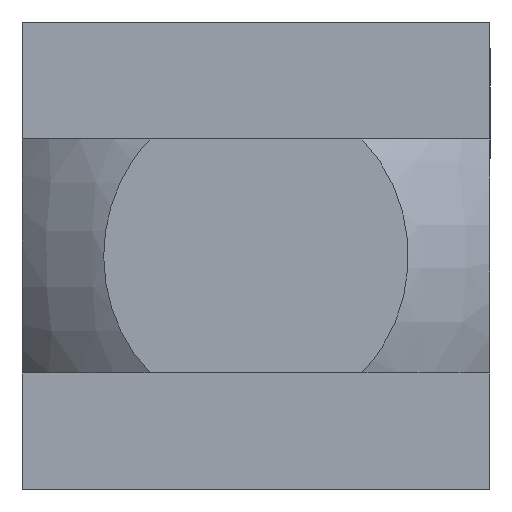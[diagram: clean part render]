
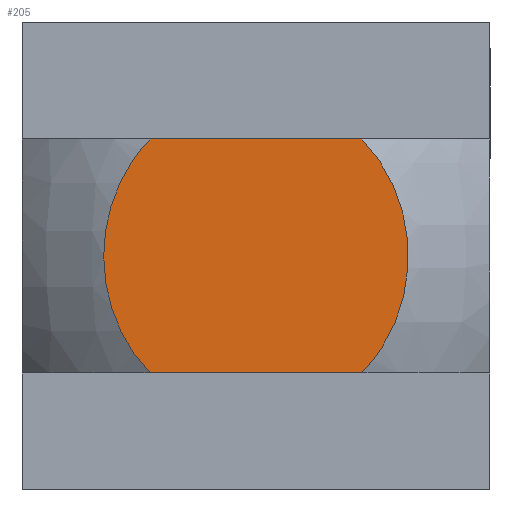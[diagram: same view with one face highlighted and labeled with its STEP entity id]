
A CAD part, left-side view. The second image highlights one B-rep face of the part: STEP entity #205.
In plain terms, the highlighted planar face has unit normal (-1, 0, 0).
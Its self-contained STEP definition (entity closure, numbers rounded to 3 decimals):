
#179 = EDGE_CURVE ( 'NONE', #252, #194, #705, .T. ) ;
#189 = ORIENTED_EDGE ( 'NONE', *, *, #179, .F. ) ;
#190 = EDGE_CURVE ( 'NONE', #219, #191, #719, .T. ) ;
#191 = VERTEX_POINT ( 'NONE', #718 ) ;
#192 = ORIENTED_EDGE ( 'NONE', *, *, #193, .T. ) ;
#193 = EDGE_CURVE ( 'NONE', #219, #194, #720, .T. ) ;
#194 = VERTEX_POINT ( 'NONE', #789 ) ;
#205 = ADVANCED_FACE ( 'NONE', ( #759 ), #758, .T. ) ;
#213 = EDGE_LOOP ( 'NONE', ( #218, #192, #189, #243 ) ) ;
#218 = ORIENTED_EDGE ( 'NONE', *, *, #190, .F. ) ;
#219 = VERTEX_POINT ( 'NONE', #806 ) ;
#243 = ORIENTED_EDGE ( 'NONE', *, *, #244, .F. ) ;
#244 = EDGE_CURVE ( 'NONE', #191, #252, #912, .T. ) ;
#252 = VERTEX_POINT ( 'NONE', #901 ) ;
#684 = CARTESIAN_POINT ( 'NONE',  ( -41.5, 10.056, 2.913 ) ) ;
#685 = CARTESIAN_POINT ( 'NONE',  ( -41.5, 10.14, 2.557 ) ) ;
#686 = CARTESIAN_POINT ( 'NONE',  ( -41.5, 10.344, 1.479 ) ) ;
#687 = CARTESIAN_POINT ( 'NONE',  ( -41.5, 10.413, 0.75 ) ) ;
#688 = CARTESIAN_POINT ( 'NONE',  ( -41.5, 10.414, -0.731 ) ) ;
#689 = CARTESIAN_POINT ( 'NONE',  ( -41.5, 10.346, -1.465 ) ) ;
#690 = CARTESIAN_POINT ( 'NONE',  ( -41.5, 10.141, -2.553 ) ) ;
#691 = CARTESIAN_POINT ( 'NONE',  ( -41.5, 10.055, -2.914 ) ) ;
#692 = CARTESIAN_POINT ( 'NONE',  ( -41.5, 9.851, -3.622 ) ) ;
#693 = CARTESIAN_POINT ( 'NONE',  ( -41.5, 9.733, -3.969 ) ) ;
#694 = CARTESIAN_POINT ( 'NONE',  ( -41.5, 9.466, -4.65 ) ) ;
#695 = CARTESIAN_POINT ( 'NONE',  ( -41.5, 9.316, -4.984 ) ) ;
#696 = CARTESIAN_POINT ( 'NONE',  ( -41.5, 8.983, -5.638 ) ) ;
#697 = CARTESIAN_POINT ( 'NONE',  ( -41.5, 8.8, -5.96 ) ) ;
#698 = CARTESIAN_POINT ( 'NONE',  ( -41.5, 8.203, -6.895 ) ) ;
#699 = CARTESIAN_POINT ( 'NONE',  ( -41.5, 7.751, -7.472 ) ) ;
#700 = CARTESIAN_POINT ( 'NONE',  ( -41.5, 7.242, -8. ) ) ;
#705 = B_SPLINE_CURVE_WITH_KNOTS ( 'NONE', 3,
 ( #700, #699, #698, #697, #696, #695, #694, #693, #692, #691, #690, #689, #688, #687, #686, #685, #684, #755, #754, #753, #752, #751, #750, #749, #748, #747 ),
 .UNSPECIFIED., .F., .F.,
 ( 4, 2, 2, 2, 2, 2, 2, 2, 2, 2, 2, 2, 4 ),
 ( 0.059, 0.061, 0.062, 0.063, 0.064, 0.065, 0.067, 0.07, 0.071, 0.072, 0.074, 0.075, 0.076 ),
 .UNSPECIFIED. ) ;
#718 = CARTESIAN_POINT ( 'NONE',  ( -41.5, -7.242, -8. ) ) ;
#719 = B_SPLINE_CURVE_WITH_KNOTS ( 'NONE', 3,
 ( #729, #728, #727, #726, #725, #724, #723, #722, #721, #786, #785, #784, #783, #782, #781, #780, #779, #778, #777, #776, #775, #774, #773, #772, #771, #770 ),
 .UNSPECIFIED., .F., .F.,
 ( 4, 2, 2, 2, 2, 2, 2, 2, 2, 2, 2, 2, 4 ),
 ( 0.025, 0.027, 0.028, 0.029, 0.032, 0.033, 0.034, 0.036, 0.037, 0.038, 0.039, 0.04, 0.043 ),
 .UNSPECIFIED. ) ;
#720 = LINE ( 'NONE', #792, #791 ) ;
#721 = CARTESIAN_POINT ( 'NONE',  ( -41.5, -10.073, 2.913 ) ) ;
#722 = CARTESIAN_POINT ( 'NONE',  ( -41.5, -9.871, 3.616 ) ) ;
#723 = CARTESIAN_POINT ( 'NONE',  ( -41.5, -9.469, 4.642 ) ) ;
#724 = CARTESIAN_POINT ( 'NONE',  ( -41.5, -9.317, 4.98 ) ) ;
#725 = CARTESIAN_POINT ( 'NONE',  ( -41.5, -8.982, 5.64 ) ) ;
#726 = CARTESIAN_POINT ( 'NONE',  ( -41.5, -8.8, 5.96 ) ) ;
#727 = CARTESIAN_POINT ( 'NONE',  ( -41.5, -8.208, 6.888 ) ) ;
#728 = CARTESIAN_POINT ( 'NONE',  ( -41.5, -7.756, 7.466 ) ) ;
#729 = CARTESIAN_POINT ( 'NONE',  ( -41.5, -7.242, 8. ) ) ;
#747 = CARTESIAN_POINT ( 'NONE',  ( -41.5, 7.242, 8. ) ) ;
#748 = CARTESIAN_POINT ( 'NONE',  ( -41.5, 7.495, 7.737 ) ) ;
#749 = CARTESIAN_POINT ( 'NONE',  ( -41.5, 7.736, 7.46 ) ) ;
#750 = CARTESIAN_POINT ( 'NONE',  ( -41.5, 8.193, 6.879 ) ) ;
#751 = CARTESIAN_POINT ( 'NONE',  ( -41.5, 8.406, 6.577 ) ) ;
#752 = CARTESIAN_POINT ( 'NONE',  ( -41.5, 8.997, 5.65 ) ) ;
#753 = CARTESIAN_POINT ( 'NONE',  ( -41.5, 9.328, 4.998 ) ) ;
#754 = CARTESIAN_POINT ( 'NONE',  ( -41.5, 9.732, 3.973 ) ) ;
#755 = CARTESIAN_POINT ( 'NONE',  ( -41.5, 9.852, 3.621 ) ) ;
#756 = CARTESIAN_POINT ( 'NONE',  ( -41.5, 16., -16. ) ) ;
#757 = AXIS2_PLACEMENT_3D ( 'NONE', #756, #818, #817 ) ;
#758 = PLANE ( 'NONE',  #757 ) ;
#759 = FACE_OUTER_BOUND ( 'NONE', #213, .T. ) ;
#770 = CARTESIAN_POINT ( 'NONE',  ( -41.5, -7.242, -8. ) ) ;
#771 = CARTESIAN_POINT ( 'NONE',  ( -41.5, -7.749, -7.473 ) ) ;
#772 = CARTESIAN_POINT ( 'NONE',  ( -41.5, -8.201, -6.898 ) ) ;
#773 = CARTESIAN_POINT ( 'NONE',  ( -41.5, -8.798, -5.963 ) ) ;
#774 = CARTESIAN_POINT ( 'NONE',  ( -41.5, -8.982, -5.641 ) ) ;
#775 = CARTESIAN_POINT ( 'NONE',  ( -41.5, -9.314, -4.986 ) ) ;
#776 = CARTESIAN_POINT ( 'NONE',  ( -41.5, -9.464, -4.652 ) ) ;
#777 = CARTESIAN_POINT ( 'NONE',  ( -41.5, -9.732, -3.972 ) ) ;
#778 = CARTESIAN_POINT ( 'NONE',  ( -41.5, -9.85, -3.626 ) ) ;
#779 = CARTESIAN_POINT ( 'NONE',  ( -41.5, -10.054, -2.921 ) ) ;
#780 = CARTESIAN_POINT ( 'NONE',  ( -41.5, -10.139, -2.561 ) ) ;
#781 = CARTESIAN_POINT ( 'NONE',  ( -41.5, -10.346, -1.47 ) ) ;
#782 = CARTESIAN_POINT ( 'NONE',  ( -41.5, -10.413, -0.74 ) ) ;
#783 = CARTESIAN_POINT ( 'NONE',  ( -41.5, -10.414, 0.358 ) ) ;
#784 = CARTESIAN_POINT ( 'NONE',  ( -41.5, -10.397, 0.724 ) ) ;
#785 = CARTESIAN_POINT ( 'NONE',  ( -41.5, -10.329, 1.458 ) ) ;
#786 = CARTESIAN_POINT ( 'NONE',  ( -41.5, -10.278, 1.827 ) ) ;
#789 = CARTESIAN_POINT ( 'NONE',  ( -41.5, 7.242, 8. ) ) ;
#790 = DIRECTION ( 'NONE',  ( 0., 1., 0. ) ) ;
#791 = VECTOR ( 'NONE', #790, 1000. ) ;
#792 = CARTESIAN_POINT ( 'NONE',  ( -41.5, -16., 8. ) ) ;
#806 = CARTESIAN_POINT ( 'NONE',  ( -41.5, -7.242, 8. ) ) ;
#817 = DIRECTION ( 'NONE',  ( 0., 0., 1. ) ) ;
#818 = DIRECTION ( 'NONE',  ( -1., 0., 0. ) ) ;
#901 = CARTESIAN_POINT ( 'NONE',  ( -41.5, 7.242, -8. ) ) ;
#909 = DIRECTION ( 'NONE',  ( 0., 1., 0. ) ) ;
#910 = VECTOR ( 'NONE', #909, 1000. ) ;
#911 = CARTESIAN_POINT ( 'NONE',  ( -41.5, -16., -8. ) ) ;
#912 = LINE ( 'NONE', #911, #910 ) ;
